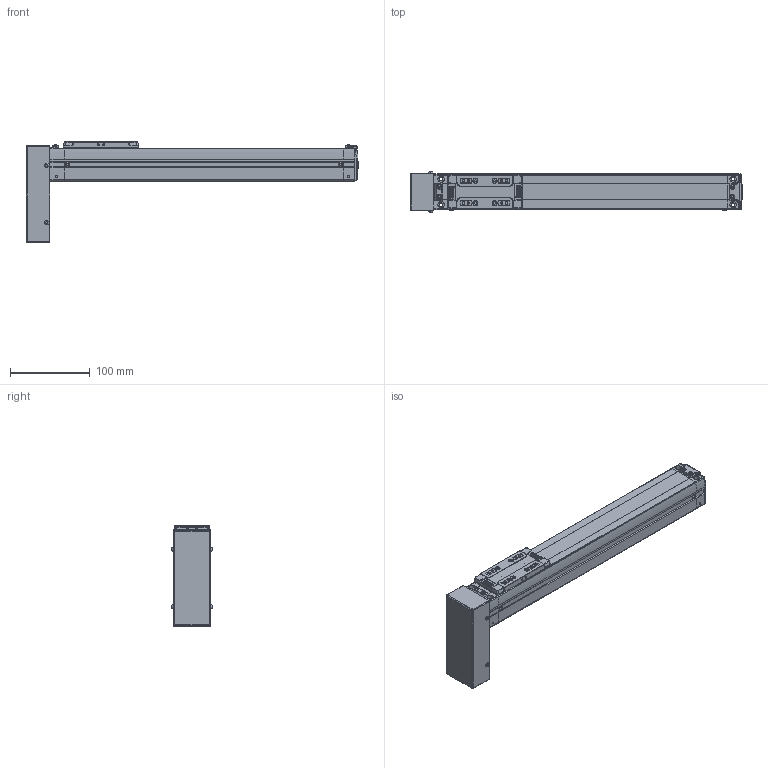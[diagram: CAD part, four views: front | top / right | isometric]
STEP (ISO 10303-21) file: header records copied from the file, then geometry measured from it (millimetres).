
FILE_DESCRIPTION(('STEP AP214'),'1');
FILE_NAME('Z:/Web/3D/SAN45/2013.ver/STP/SAN45-250PB.stp','2013-05-15T00:31:50',(' '),(' '),'Spatial InterOp 3D',' ',' ');
FILE_SCHEMA(('automotive_design'));
Length unit declared in the file: millimetre
Products named in the file (28): BODY-SAN45; REAR-SAN45; RRCV-SAN45; BHCS M3 x 6L; BHCS M3 X 6L; FRONT-SAN45; SHAFT; RN8 x 0.75; SSFX-SAN45; SLIDE-SAN45; SLCV-IM45; FHCS M3 x 6L; BTCV-SAN45
Bounding box: 416.15 x 51.13 x 126 mm (x, y, z)
Volume: 868319.1 mm3; surface area: 142054.9 mm2
Topology: 28 solids, 28 shells, 1700 faces, 4417 edges, 2853 vertices
Faces by surface type: plane 887, cylinder 593, cone 122, bspline 40, sphere 40, torus 12, extrusion 6
Entity records: 70077 total; most frequent: CARTESIAN_POINT 13354, DIRECTION 9184, ORIENTED_EDGE 8742, EDGE_CURVE 4371, AXIS2_PLACEMENT_3D 3232, VERTEX_POINT 2853, VECTOR 2720, LINE 2714
